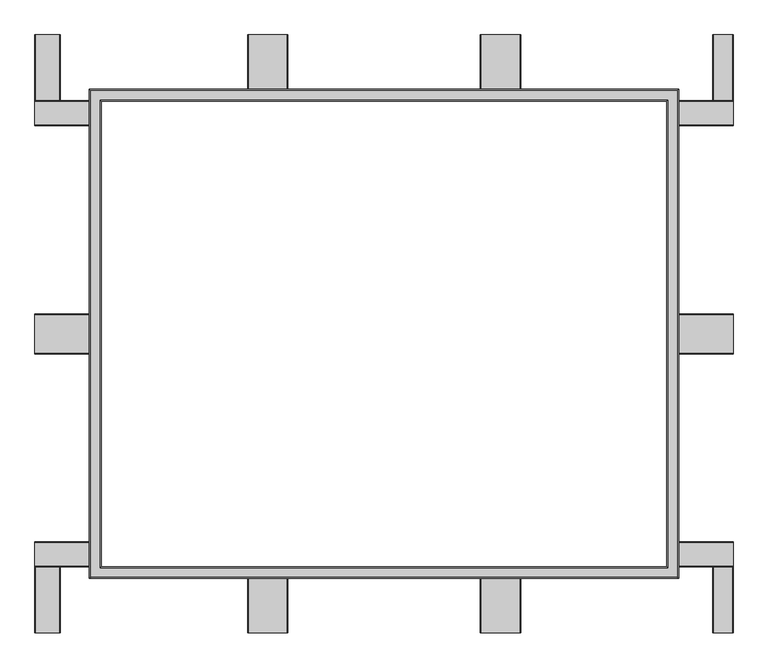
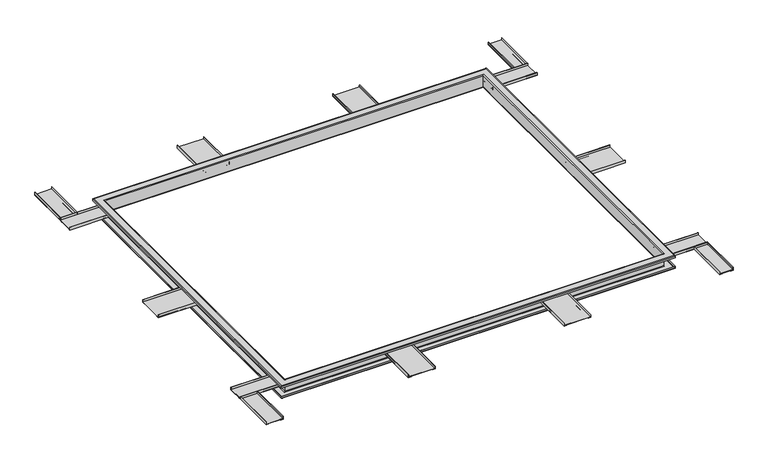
"""IFC4 building model written with IfcOpenShell, lengths in millimetres: furniture geometry, H07 Ducto laboratorios cuadrado : H07 Ducto laboratorios."""

from ifc_helpers import new_model, si_unit, frame, origin, place, context, project, spatial, polyline, ellipse_curve, outline, extrude, source, transform, mapped, element, save
from ifc_brep_helpers import plane_surface, cylinder_surface, revolved_surface, advanced_brep


def furniture_93ab70db(model_context):
    return source(origin(), model_context, "Body", "SolidModel", [
        extrude(outline(polyline([(-1920.5165908, 2167.0), (-1920.5165908, 2192.4), (-1917.5165908, 2192.4), (-1917.5165908, 2170.0), (-1895.1165908, 2170.0), (-1895.1165908, 2167.0), (-1920.5165908, 2167.0)])), frame((1746.7003264, 0.0, 0.0), z_axis=(1.0, 0.0, 0.0), x_axis=(0.0, 1.0, 0.0)), (0.0, 0.0, 1.0), 396.0),
        extrude(outline(polyline([(-1679.4917854, 2167.0), (-1704.8917854, 2167.0), (-1704.8917854, 2170.0), (-1682.4917854, 2170.0), (-1682.4917854, 2192.4), (-1679.4917854, 2192.4), (-1679.4917854, 2167.0)])), frame((1746.7003264, 0.0, 0.0), z_axis=(1.0, 0.0, 0.0), x_axis=(0.0, 1.0, 0.0)), (0.0, 0.0, 1.0), 396.0),
        extrude(outline(polyline([(2142.7003264, -1679.4917854), (2142.7003264, -1920.5165908), (1746.7003264, -1920.5165908), (1746.7003264, -1679.4917854), (2142.7003264, -1679.4917854)])), frame((0.0, 0.0, 2170.0), z_axis=(0.0, 0.0, 1.0), x_axis=(1.0, 0.0, 0.0)), (0.0, 0.0, 1.0), 3.0),
        extrude(outline(polyline([(2167.0, 2142.7003264), (2192.4, 2142.7003264), (2192.4, 2139.7003264), (2170.0, 2139.7003264), (2170.0, 2117.3003264), (2167.0, 2117.3003264), (2167.0, 2142.7003264)])), frame((0.0, -3598.0, 0.0), z_axis=(0.0, 1.0, 0.0), x_axis=(0.0, 0.0, 1.0)), (0.0, 0.0, 1.0), 396.0),
        extrude(outline(polyline([(2167.0, 2021.03388), (2167.0, 2046.43388), (2170.0, 2046.43388), (2170.0, 2024.03388), (2192.4, 2024.03388), (2192.4, 2021.03388), (2167.0, 2021.03388)])), frame((0.0, -3598.0, 0.0), z_axis=(0.0, 1.0, 0.0), x_axis=(0.0, 0.0, 1.0)), (0.0, 0.0, 1.0), 396.0),
        extrude(outline(polyline([(2021.03388, -3598.0), (2021.03388, -3202.0), (2142.7003264, -3202.0), (2142.7003264, -3598.0), (2021.03388, -3598.0)])), frame((0.0, 0.0, 2170.0), z_axis=(0.0, 0.0, 1.0), x_axis=(1.0, 0.0, 0.0)), (0.0, 0.0, 1.0), 3.0),
        extrude(outline(polyline([(2167.0, -2053.2996736), (2167.0, -2027.8996736), (2170.0, -2027.8996736), (2170.0, -2050.2996736), (2192.4, -2050.2996736), (2192.4, -2053.2996736), (2167.0, -2053.2996736)])), frame((0.0, -3598.0, 0.0), z_axis=(0.0, 1.0, 0.0), x_axis=(0.0, 0.0, 1.0)), (0.0, 0.0, 1.0), 396.0),
        extrude(outline(polyline([(2167.0, -1900.2996736), (2192.4, -1900.2996736), (2192.4, -1903.2996736), (2170.0, -1903.2996736), (2170.0, -1925.6996736), (2167.0, -1925.6996736), (2167.0, -1900.2996736)])), frame((0.0, -3598.0, 0.0), z_axis=(0.0, 1.0, 0.0), x_axis=(0.0, 0.0, 1.0)), (0.0, 0.0, 1.0), 396.0),
        extrude(outline(polyline([(-1900.2996736, -3598.0), (-2053.2996736, -3598.0), (-2053.2996736, -3202.0), (-1900.2996736, -3202.0), (-1900.2996736, -3598.0)])), frame((0.0, 0.0, 2170.0), z_axis=(0.0, 0.0, 1.0), x_axis=(1.0, 0.0, 0.0)), (0.0, 0.0, 1.0), 3.0),
        extrude(outline(polyline([(2167.0, 624.1837356), (2167.0, 649.5837356), (2170.0, 649.5837356), (2170.0, 627.1837356), (2192.4, 627.1837356), (2192.4, 624.1837356), (2167.0, 624.1837356)])), frame((0.0, -3598.0, 0.0), z_axis=(0.0, 1.0, 0.0), x_axis=(0.0, 0.0, 1.0)), (0.0, 0.0, 1.0), 396.0),
        extrude(outline(polyline([(2167.0, 865.208541), (2192.4, 865.208541), (2192.4, 862.208541), (2170.0, 862.208541), (2170.0, 839.808541), (2167.0, 839.808541), (2167.0, 865.208541)])), frame((0.0, -3598.0, 0.0), z_axis=(0.0, 1.0, 0.0), x_axis=(0.0, 0.0, 1.0)), (0.0, 0.0, 1.0), 396.0),
        extrude(outline(polyline([(865.208541, -3598.0), (624.1837356, -3598.0), (624.1837356, -3202.0), (865.208541, -3202.0), (865.208541, -3598.0)])), frame((0.0, 0.0, 2170.0), z_axis=(0.0, 0.0, 1.0), x_axis=(1.0, 0.0, 0.0)), (0.0, 0.0, 1.0), 3.0),
        extrude(outline(polyline([(2167.0, -774.8162644), (2167.0, -749.4162644), (2170.0, -749.4162644), (2170.0, -771.8162644), (2192.4, -771.8162644), (2192.4, -774.8162644), (2167.0, -774.8162644)])), frame((0.0, -3598.0, 0.0), z_axis=(0.0, 1.0, 0.0), x_axis=(0.0, 0.0, 1.0)), (0.0, 0.0, 1.0), 396.0),
        extrude(outline(polyline([(2167.0, -534.791459), (2192.4, -534.791459), (2192.4, -537.791459), (2170.0, -537.791459), (2170.0, -560.191459), (2167.0, -560.191459), (2167.0, -534.791459)])), frame((0.0, -3598.0, 0.0), z_axis=(0.0, 1.0, 0.0), x_axis=(0.0, 0.0, 1.0)), (0.0, 0.0, 1.0), 396.0),
        extrude(outline(polyline([(-534.791459, -3598.0), (-774.8162644, -3598.0), (-774.8162644, -3202.0), (-534.791459, -3202.0), (-534.791459, -3598.0)])), frame((0.0, 0.0, 2170.0), z_axis=(0.0, 0.0, 1.0), x_axis=(1.0, 0.0, 0.0)), (0.0, 0.0, 1.0), 3.0),
        extrude(outline(polyline([(2167.0, 2142.7003264), (2192.4, 2142.7003264), (2192.4, 2139.7003264), (2170.0, 2139.7003264), (2170.0, 2117.3003264), (2167.0, 2117.3003264), (2167.0, 2142.7003264)])), frame((0.0, -398.0, 0.0), z_axis=(0.0, 1.0, 0.0), x_axis=(0.0, 0.0, 1.0)), (0.0, 0.0, 1.0), 396.0),
        extrude(outline(polyline([(2167.0, 2021.03388), (2167.0, 2046.43388), (2170.0, 2046.43388), (2170.0, 2024.03388), (2192.4, 2024.03388), (2192.4, 2021.03388), (2167.0, 2021.03388)])), frame((0.0, -398.0, 0.0), z_axis=(0.0, 1.0, 0.0), x_axis=(0.0, 0.0, 1.0)), (0.0, 0.0, 1.0), 396.0),
        extrude(outline(polyline([(2021.03388, -2.0), (2142.7003264, -2.0), (2142.7003264, -398.0), (2021.03388, -398.0), (2021.03388, -2.0)])), frame((0.0, 0.0, 2170.0), z_axis=(0.0, 0.0, 1.0), x_axis=(1.0, 0.0, 0.0)), (0.0, 0.0, 1.0), 3.0),
        extrude(outline(polyline([(2167.0, -2053.2996736), (2167.0, -2027.8996736), (2170.0, -2027.8996736), (2170.0, -2050.2996736), (2192.4, -2050.2996736), (2192.4, -2053.2996736), (2167.0, -2053.2996736)])), frame((0.0, -398.0, 0.0), z_axis=(0.0, 1.0, 0.0), x_axis=(0.0, 0.0, 1.0)), (0.0, 0.0, 1.0), 396.0),
        extrude(outline(polyline([(2167.0, -1900.2996736), (2192.4, -1900.2996736), (2192.4, -1903.2996736), (2170.0, -1903.2996736), (2170.0, -1925.6996736), (2167.0, -1925.6996736), (2167.0, -1900.2996736)])), frame((0.0, -398.0, 0.0), z_axis=(0.0, 1.0, 0.0), x_axis=(0.0, 0.0, 1.0)), (0.0, 0.0, 1.0), 396.0),
        extrude(outline(polyline([(-1900.2996736, -2.0), (-1900.2996736, -398.0), (-2053.2996736, -398.0), (-2053.2996736, -2.0), (-1900.2996736, -2.0)])), frame((0.0, 0.0, 2170.0), z_axis=(0.0, 0.0, 1.0), x_axis=(1.0, 0.0, 0.0)), (0.0, 0.0, 1.0), 3.0),
        extrude(outline(polyline([(-3202.0, 2167.0), (-3202.0, 2192.4), (-3199.0, 2192.4), (-3199.0, 2170.0), (-3176.6, 2170.0), (-3176.6, 2167.0), (-3202.0, 2167.0)])), frame((1746.7003264, 0.0, 0.0), z_axis=(1.0, 0.0, 0.0), x_axis=(0.0, 1.0, 0.0)), (0.0, 0.0, 1.0), 396.0),
        extrude(outline(polyline([(-3052.0, 2167.0), (-3077.4, 2167.0), (-3077.4, 2170.0), (-3055.0, 2170.0), (-3055.0, 2192.4), (-3052.0, 2192.4), (-3052.0, 2167.0)])), frame((1746.7003264, 0.0, 0.0), z_axis=(1.0, 0.0, 0.0), x_axis=(0.0, 1.0, 0.0)), (0.0, 0.0, 1.0), 396.0),
        extrude(outline(polyline([(1746.7003264, -3052.0), (2142.7003264, -3052.0), (2142.7003264, -3202.0), (1746.7003264, -3202.0), (1746.7003264, -3052.0)])), frame((0.0, 0.0, 2170.0), z_axis=(0.0, 0.0, 1.0), x_axis=(1.0, 0.0, 0.0)), (0.0, 0.0, 1.0), 3.0),
        extrude(outline(polyline([(-3202.0, 2167.0), (-3202.0, 2192.4), (-3199.0, 2192.4), (-3199.0, 2170.0), (-3176.6, 2170.0), (-3176.6, 2167.0), (-3202.0, 2167.0)])), frame((-2053.2996736, 0.0, 0.0), z_axis=(1.0, 0.0, 0.0), x_axis=(0.0, 1.0, 0.0)), (0.0, 0.0, 1.0), 396.0),
        extrude(outline(polyline([(-3052.0, 2167.0), (-3077.4, 2167.0), (-3077.4, 2170.0), (-3055.0, 2170.0), (-3055.0, 2192.4), (-3052.0, 2192.4), (-3052.0, 2167.0)])), frame((-2053.2996736, 0.0, 0.0), z_axis=(1.0, 0.0, 0.0), x_axis=(0.0, 1.0, 0.0)), (0.0, 0.0, 1.0), 396.0),
        extrude(outline(polyline([(-2053.2996736, -3052.0), (-1657.2996736, -3052.0), (-1657.2996736, -3202.0), (-2053.2996736, -3202.0), (-2053.2996736, -3052.0)])), frame((0.0, 0.0, 2170.0), z_axis=(0.0, 0.0, 1.0), x_axis=(1.0, 0.0, 0.0)), (0.0, 0.0, 1.0), 3.0),
        extrude(outline(polyline([(-548.0, 2167.0), (-548.0, 2192.4), (-545.0, 2192.4), (-545.0, 2170.0), (-522.6, 2170.0), (-522.6, 2167.0), (-548.0, 2167.0)])), frame((1746.7003264, 0.0, 0.0), z_axis=(1.0, 0.0, 0.0), x_axis=(0.0, 1.0, 0.0)), (0.0, 0.0, 1.0), 396.0),
        extrude(outline(polyline([(-398.0, 2167.0), (-423.4, 2167.0), (-423.4, 2170.0), (-401.0, 2170.0), (-401.0, 2192.4), (-398.0, 2192.4), (-398.0, 2167.0)])), frame((1746.7003264, 0.0, 0.0), z_axis=(1.0, 0.0, 0.0), x_axis=(0.0, 1.0, 0.0)), (0.0, 0.0, 1.0), 396.0),
        extrude(outline(polyline([(1746.7003264, -398.0), (2142.7003264, -398.0), (2142.7003264, -548.0), (1746.7003264, -548.0), (1746.7003264, -398.0)])), frame((0.0, 0.0, 2170.0), z_axis=(0.0, 0.0, 1.0), x_axis=(1.0, 0.0, 0.0)), (0.0, 0.0, 1.0), 3.0),
        extrude(outline(polyline([(-548.0, 2167.0), (-548.0, 2192.4), (-545.0, 2192.4), (-545.0, 2170.0), (-522.6, 2170.0), (-522.6, 2167.0), (-548.0, 2167.0)])), frame((-2053.2996736, 0.0, 0.0), z_axis=(1.0, 0.0, 0.0), x_axis=(0.0, 1.0, 0.0)), (0.0, 0.0, 1.0), 396.0),
        extrude(outline(polyline([(-398.0, 2167.0), (-423.4, 2167.0), (-423.4, 2170.0), (-401.0, 2170.0), (-401.0, 2192.4), (-398.0, 2192.4), (-398.0, 2167.0)])), frame((-2053.2996736, 0.0, 0.0), z_axis=(1.0, 0.0, 0.0), x_axis=(0.0, 1.0, 0.0)), (0.0, 0.0, 1.0), 396.0),
        extrude(outline(polyline([(-2053.2996736, -398.0), (-1657.2996736, -398.0), (-1657.2996736, -548.0), (-2053.2996736, -548.0), (-2053.2996736, -398.0)])), frame((0.0, 0.0, 2170.0), z_axis=(0.0, 0.0, 1.0), x_axis=(1.0, 0.0, 0.0)), (0.0, 0.0, 1.0), 3.0),
        extrude(outline(polyline([(-1920.5165908, 2167.0), (-1920.5165908, 2192.4), (-1917.5165908, 2192.4), (-1917.5165908, 2170.0), (-1895.1165908, 2170.0), (-1895.1165908, 2167.0), (-1920.5165908, 2167.0)])), frame((-2053.2996736, 0.0, 0.0), z_axis=(1.0, 0.0, 0.0), x_axis=(0.0, 1.0, 0.0)), (0.0, 0.0, 1.0), 396.0),
        extrude(outline(polyline([(-1679.4917854, 2167.0), (-1704.8917854, 2167.0), (-1704.8917854, 2170.0), (-1682.4917854, 2170.0), (-1682.4917854, 2192.4), (-1679.4917854, 2192.4), (-1679.4917854, 2167.0)])), frame((-2053.2996736, 0.0, 0.0), z_axis=(1.0, 0.0, 0.0), x_axis=(0.0, 1.0, 0.0)), (0.0, 0.0, 1.0), 396.0),
        extrude(outline(polyline([(-2053.2996736, -1679.4917854), (-1657.2996736, -1679.4917854), (-1657.2996736, -1920.5165908), (-2053.2996736, -1920.5165908), (-2053.2996736, -1679.4917854)])), frame((0.0, 0.0, 2170.0), z_axis=(0.0, 0.0, 1.0), x_axis=(1.0, 0.0, 0.0)), (0.0, 0.0, 1.0), 3.0),
        extrude(outline(polyline([(2167.0, 624.1837356), (2167.0, 649.5837356), (2170.0, 649.5837356), (2170.0, 627.1837356), (2192.4, 627.1837356), (2192.4, 624.1837356), (2167.0, 624.1837356)])), frame((0.0, -398.0, 0.0), z_axis=(0.0, 1.0, 0.0), x_axis=(0.0, 0.0, 1.0)), (0.0, 0.0, 1.0), 396.0),
        extrude(outline(polyline([(2167.0, 865.208541), (2192.4, 865.208541), (2192.4, 862.208541), (2170.0, 862.208541), (2170.0, 839.808541), (2167.0, 839.808541), (2167.0, 865.208541)])), frame((0.0, -398.0, 0.0), z_axis=(0.0, 1.0, 0.0), x_axis=(0.0, 0.0, 1.0)), (0.0, 0.0, 1.0), 396.0),
        extrude(outline(polyline([(865.208541, -2.0), (865.208541, -398.0), (624.1837356, -398.0), (624.1837356, -2.0), (865.208541, -2.0)])), frame((0.0, 0.0, 2170.0), z_axis=(0.0, 0.0, 1.0), x_axis=(1.0, 0.0, 0.0)), (0.0, 0.0, 1.0), 3.0),
        extrude(outline(polyline([(2167.0, -774.8162644), (2167.0, -749.4162644), (2170.0, -749.4162644), (2170.0, -771.8162644), (2192.4, -771.8162644), (2192.4, -774.8162644), (2167.0, -774.8162644)])), frame((0.0, -398.0, 0.0), z_axis=(0.0, 1.0, 0.0), x_axis=(0.0, 0.0, 1.0)), (0.0, 0.0, 1.0), 396.0),
        extrude(outline(polyline([(2167.0, -534.791459), (2192.4, -534.791459), (2192.4, -537.791459), (2170.0, -537.791459), (2170.0, -560.191459), (2167.0, -560.191459), (2167.0, -534.791459)])), frame((0.0, -398.0, 0.0), z_axis=(0.0, 1.0, 0.0), x_axis=(0.0, 0.0, 1.0)), (0.0, 0.0, 1.0), 396.0),
        extrude(outline(polyline([(-534.791459, -2.0), (-534.791459, -398.0), (-774.8162644, -398.0), (-774.8162644, -2.0), (-534.791459, -2.0)])), frame((0.0, 0.0, 2170.0), z_axis=(0.0, 0.0, 1.0), x_axis=(1.0, 0.0, 0.0)), (0.0, 0.0, 1.0), 3.0),
        advanced_brep(
        [(-1725.2996736, -3270.0, 2120.0), (-1725.2996736, -3270.0, 2106.0), (1814.7003264, -3270.0, 2106.0), (1814.7003264, -3270.0, 2120.0), (-1723.2996736, -3268.0, 2106.0), (-1723.2996736, -3268.0, 2120.0), (1812.7003264, -3268.0, 2120.0), (1812.7003264, -3268.0, 2106.0), (-1719.2996736, -3264.0, 2102.0), (1808.7003264, -3264.0, 2102.0), (-1657.2996736, -3202.0, 2106.0), (-1661.2996736, -3206.0, 2102.0), (1750.7003264, -3206.0, 2102.0), (1746.7003264, -3202.0, 2106.0), (-1657.2996736, -3202.0, 2214.0), (1746.7003264, -3202.0, 2214.0), (-1661.2996736, -3206.0, 2218.0), (1750.7003264, -3206.0, 2218.0), (-1723.2996736, -3268.0, 2214.0), (-1719.2996736, -3264.0, 2218.0), (1808.7003264, -3264.0, 2218.0), (1812.7003264, -3268.0, 2214.0), (-1723.2996736, -3268.0, 2200.0), (1812.7003264, -3268.0, 2200.0), (-1725.2996736, -3270.0, 2214.0), (-1725.2996736, -3270.0, 2200.0), (1814.7003264, -3270.0, 2200.0), (1814.7003264, -3270.0, 2214.0), (-1719.2996736, -3264.0, 2220.0), (1808.7003264, -3264.0, 2220.0), (-1655.2996736, -3200.0, 2214.0), (-1661.2996736, -3206.0, 2220.0), (1750.7003264, -3206.0, 2220.0), (1744.7003264, -3200.0, 2214.0), (-1655.2996736, -3200.0, 2106.0), (1744.7003264, -3200.0, 2106.0), (-1661.2996736, -3206.0, 2100.0), (1750.7003264, -3206.0, 2100.0), (-1719.2996736, -3264.0, 2100.0), (1808.7003264, -3264.0, 2100.0), (1814.7003264, -330.0, 2106.0), (1814.7003264, -330.0, 2120.0), (1812.7003264, -332.0, 2120.0), (1812.7003264, -332.0, 2106.0), (1808.7003264, -336.0, 2102.0), (1750.7003264, -394.0, 2102.0), (1746.7003264, -398.0, 2106.0), (1746.7003264, -398.0, 2214.0), (1750.7003264, -394.0, 2218.0), (1808.7003264, -336.0, 2218.0), (1812.7003264, -332.0, 2214.0), (1812.7003264, -332.0, 2200.0), (1814.7003264, -330.0, 2200.0), (1814.7003264, -330.0, 2214.0), (1808.7003264, -336.0, 2220.0), (1750.7003264, -394.0, 2220.0), (1744.7003264, -400.0, 2214.0), (1744.7003264, -400.0, 2106.0), (1750.7003264, -394.0, 2100.0), (1808.7003264, -336.0, 2100.0), (-1725.2996736, -330.0, 2106.0), (-1725.2996736, -330.0, 2120.0), (-1723.2996736, -332.0, 2120.0), (-1723.2996736, -332.0, 2106.0), (-1719.2996736, -336.0, 2102.0), (-1661.2996736, -394.0, 2102.0), (-1657.2996736, -398.0, 2106.0), (-1657.2996736, -398.0, 2214.0), (-1661.2996736, -394.0, 2218.0), (-1719.2996736, -336.0, 2218.0), (-1723.2996736, -332.0, 2214.0), (-1723.2996736, -332.0, 2200.0), (-1725.2996736, -330.0, 2200.0), (-1725.2996736, -330.0, 2214.0), (-1719.2996736, -336.0, 2220.0), (-1661.2996736, -394.0, 2220.0), (-1655.2996736, -400.0, 2214.0), (-1655.2996736, -400.0, 2106.0), (-1661.2996736, -394.0, 2100.0), (-1719.2996736, -336.0, 2100.0)],
        [
            (0, 1),
            (1, 2),
            (2, 3),
            (3, 0),
            (4, 5),
            (5, 6),
            (6, 7),
            (7, 4),
            (8, 4, ellipse_curve(frame((-1719.2996736, -3264.0, 2106.0), z_axis=(-0.7071067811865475, 0.7071067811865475, 0.0), x_axis=(0.7071067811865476, 0.7071067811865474, 0.0)), 5.6568542, 4.0)),
            (7, 9, ellipse_curve(frame((1808.7003264, -3264.0, 2106.0), z_axis=(0.7071067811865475, 0.7071067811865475, 0.0), x_axis=(0.7071067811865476, -0.7071067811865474, 0.0)), 5.6568542, 4.0)),
            (9, 8),
            (10, 11, ellipse_curve(frame((-1661.2996736, -3206.0, 2106.0), z_axis=(-0.7071067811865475, 0.7071067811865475, 0.0), x_axis=(0.7071067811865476, 0.7071067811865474, 0.0)), 5.6568542, 4.0)),
            (11, 12),
            (12, 13, ellipse_curve(frame((1750.7003264, -3206.0, 2106.0), z_axis=(0.7071067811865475, 0.7071067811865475, 0.0), x_axis=(0.7071067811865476, -0.7071067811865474, 0.0)), 5.6568542, 4.0)),
            (13, 10),
            (14, 10),
            (13, 15),
            (15, 14),
            (16, 14, ellipse_curve(frame((-1661.2996736, -3206.0, 2214.0), z_axis=(-0.7071067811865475, 0.7071067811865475, 0.0), x_axis=(0.7071067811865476, 0.7071067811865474, 0.0)), 5.6568542, 4.0)),
            (15, 17, ellipse_curve(frame((1750.7003264, -3206.0, 2214.0), z_axis=(0.7071067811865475, 0.7071067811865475, 0.0), x_axis=(0.7071067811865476, -0.7071067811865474, 0.0)), 5.6568542, 4.0)),
            (17, 16),
            (18, 19, ellipse_curve(frame((-1719.2996736, -3264.0, 2214.0), z_axis=(-0.7071067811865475, 0.7071067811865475, 0.0), x_axis=(0.7071067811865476, 0.7071067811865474, 0.0)), 5.6568542, 4.0)),
            (19, 20),
            (20, 21, ellipse_curve(frame((1808.7003264, -3264.0, 2214.0), z_axis=(0.7071067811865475, 0.7071067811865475, 0.0), x_axis=(0.7071067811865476, -0.7071067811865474, 0.0)), 5.6568542, 4.0)),
            (21, 18),
            (22, 18),
            (21, 23),
            (23, 22),
            (24, 25),
            (25, 26),
            (26, 27),
            (27, 24),
            (28, 24, ellipse_curve(frame((-1719.2996736, -3264.0, 2214.0), z_axis=(0.7071067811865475, -0.7071067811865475, 0.0), x_axis=(-0.7071067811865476, -0.7071067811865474, 0.0)), 8.4852814, 6.0)),
            (27, 29, ellipse_curve(frame((1808.7003264, -3264.0, 2214.0), z_axis=(-0.7071067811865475, -0.7071067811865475, 0.0), x_axis=(-0.7071067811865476, 0.7071067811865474, 0.0)), 8.4852814, 6.0)),
            (29, 28),
            (30, 31, ellipse_curve(frame((-1661.2996736, -3206.0, 2214.0), z_axis=(0.7071067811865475, -0.7071067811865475, 0.0), x_axis=(-0.7071067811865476, -0.7071067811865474, 0.0)), 8.4852814, 6.0)),
            (31, 32),
            (32, 33, ellipse_curve(frame((1750.7003264, -3206.0, 2214.0), z_axis=(-0.7071067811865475, -0.7071067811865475, 0.0), x_axis=(-0.7071067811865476, 0.7071067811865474, 0.0)), 8.4852814, 6.0)),
            (33, 30),
            (34, 30),
            (33, 35),
            (35, 34),
            (36, 34, ellipse_curve(frame((-1661.2996736, -3206.0, 2106.0), z_axis=(0.7071067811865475, -0.7071067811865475, 0.0), x_axis=(-0.7071067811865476, -0.7071067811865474, 0.0)), 8.4852814, 6.0)),
            (35, 37, ellipse_curve(frame((1750.7003264, -3206.0, 2106.0), z_axis=(-0.7071067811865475, -0.7071067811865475, 0.0), x_axis=(-0.7071067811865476, 0.7071067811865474, 0.0)), 8.4852814, 6.0)),
            (37, 36),
            (1, 38, ellipse_curve(frame((-1719.2996736, -3264.0, 2106.0), z_axis=(0.7071067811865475, -0.7071067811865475, 0.0), x_axis=(-0.7071067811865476, -0.7071067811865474, 0.0)), 8.4852814, 6.0)),
            (38, 39),
            (39, 2, ellipse_curve(frame((1808.7003264, -3264.0, 2106.0), z_axis=(-0.7071067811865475, -0.7071067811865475, 0.0), x_axis=(-0.7071067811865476, 0.7071067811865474, 0.0)), 8.4852814, 6.0)),
            (2, 40),
            (40, 41),
            (41, 3),
            (6, 42),
            (42, 43),
            (43, 7),
            (43, 44, ellipse_curve(frame((1808.7003264, -336.0, 2106.0), z_axis=(-0.7071067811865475, 0.7071067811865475, 0.0), x_axis=(0.7071067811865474, 0.7071067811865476, 0.0)), 5.6568542, 4.0)),
            (44, 9),
            (12, 45),
            (45, 46, ellipse_curve(frame((1750.7003264, -394.0, 2106.0), z_axis=(-0.7071067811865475, 0.7071067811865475, 0.0), x_axis=(0.7071067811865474, 0.7071067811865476, 0.0)), 5.6568542, 4.0)),
            (46, 13),
            (46, 47),
            (47, 15),
            (47, 48, ellipse_curve(frame((1750.7003264, -394.0, 2214.0), z_axis=(-0.7071067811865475, 0.7071067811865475, 0.0), x_axis=(0.7071067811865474, 0.7071067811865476, 0.0)), 5.6568542, 4.0)),
            (48, 17),
            (20, 49),
            (49, 50, ellipse_curve(frame((1808.7003264, -336.0, 2214.0), z_axis=(-0.7071067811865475, 0.7071067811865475, 0.0), x_axis=(0.7071067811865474, 0.7071067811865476, 0.0)), 5.6568542, 4.0)),
            (50, 21),
            (50, 51),
            (51, 23),
            (26, 52),
            (52, 53),
            (53, 27),
            (53, 54, ellipse_curve(frame((1808.7003264, -336.0, 2214.0), z_axis=(0.7071067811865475, -0.7071067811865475, 0.0), x_axis=(-0.7071067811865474, -0.7071067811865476, 0.0)), 8.4852814, 6.0)),
            (54, 29),
            (32, 55),
            (55, 56, ellipse_curve(frame((1750.7003264, -394.0, 2214.0), z_axis=(0.7071067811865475, -0.7071067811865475, 0.0), x_axis=(-0.7071067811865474, -0.7071067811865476, 0.0)), 8.4852814, 6.0)),
            (56, 33),
            (56, 57),
            (57, 35),
            (57, 58, ellipse_curve(frame((1750.7003264, -394.0, 2106.0), z_axis=(0.7071067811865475, -0.7071067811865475, 0.0), x_axis=(-0.7071067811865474, -0.7071067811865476, 0.0)), 8.4852814, 6.0)),
            (58, 37),
            (39, 59),
            (59, 40, ellipse_curve(frame((1808.7003264, -336.0, 2106.0), z_axis=(0.7071067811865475, -0.7071067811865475, 0.0), x_axis=(-0.7071067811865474, -0.7071067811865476, 0.0)), 8.4852814, 6.0)),
            (40, 60),
            (60, 61),
            (61, 41),
            (42, 62),
            (62, 63),
            (63, 43),
            (63, 64, ellipse_curve(frame((-1719.2996736, -336.0, 2106.0), z_axis=(-0.7071067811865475, -0.7071067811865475, 0.0), x_axis=(-0.7071067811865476, 0.7071067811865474, 0.0)), 5.6568542, 4.0)),
            (64, 44),
            (45, 65),
            (65, 66, ellipse_curve(frame((-1661.2996736, -394.0, 2106.0), z_axis=(-0.7071067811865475, -0.7071067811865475, 0.0), x_axis=(-0.7071067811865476, 0.7071067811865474, 0.0)), 5.6568542, 4.0)),
            (66, 46),
            (66, 67),
            (67, 47),
            (67, 68, ellipse_curve(frame((-1661.2996736, -394.0, 2214.0), z_axis=(-0.7071067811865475, -0.7071067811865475, 0.0), x_axis=(-0.7071067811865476, 0.7071067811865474, 0.0)), 5.6568542, 4.0)),
            (68, 48),
            (49, 69),
            (69, 70, ellipse_curve(frame((-1719.2996736, -336.0, 2214.0), z_axis=(-0.7071067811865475, -0.7071067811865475, 0.0), x_axis=(-0.7071067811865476, 0.7071067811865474, 0.0)), 5.6568542, 4.0)),
            (70, 50),
            (70, 71),
            (71, 51),
            (52, 72),
            (72, 73),
            (73, 53),
            (73, 74, ellipse_curve(frame((-1719.2996736, -336.0, 2214.0), z_axis=(0.7071067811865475, 0.7071067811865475, 0.0), x_axis=(0.7071067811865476, -0.7071067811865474, 0.0)), 8.4852814, 6.0)),
            (74, 54),
            (55, 75),
            (75, 76, ellipse_curve(frame((-1661.2996736, -394.0, 2214.0), z_axis=(0.7071067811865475, 0.7071067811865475, 0.0), x_axis=(0.7071067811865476, -0.7071067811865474, 0.0)), 8.4852814, 6.0)),
            (76, 56),
            (76, 77),
            (77, 57),
            (77, 78, ellipse_curve(frame((-1661.2996736, -394.0, 2106.0), z_axis=(0.7071067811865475, 0.7071067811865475, 0.0), x_axis=(0.7071067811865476, -0.7071067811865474, 0.0)), 8.4852814, 6.0)),
            (78, 58),
            (59, 79),
            (79, 60, ellipse_curve(frame((-1719.2996736, -336.0, 2106.0), z_axis=(0.7071067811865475, 0.7071067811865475, 0.0), x_axis=(0.7071067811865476, -0.7071067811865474, 0.0)), 8.4852814, 6.0)),
            (60, 1),
            (0, 61),
            (5, 62),
            (4, 63),
            (8, 64),
            (11, 65),
            (10, 66),
            (14, 67),
            (16, 68),
            (19, 69),
            (18, 70),
            (22, 71),
            (25, 72),
            (24, 73),
            (28, 74),
            (31, 75),
            (30, 76),
            (34, 77),
            (36, 78),
            (38, 79),
        ],
        [
            plane_surface(frame((-1725.2996736, -3270.0, 2106.0), z_axis=(0.0, -1.0, 0.0), x_axis=(1.0, 0.0, 0.0))),
            plane_surface(frame((-1723.2996736, -3268.0, 2120.0), z_axis=(0.0, 1.0, 0.0), x_axis=(1.0, 0.0, 0.0))),
            revolved_surface(polyline([(1812.7003264, -3268.0, 2106.0), (-1723.2996736, -3268.0, 2106.0)]), (-1655.2996736, -3264.0, 2106.0), (1.0, 0.0, 0.0)),
            revolved_surface(polyline([(1754.7003263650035, -3210.0, 2106.0), (-1665.2996735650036, -3210.0, 2106.0)]), (-1655.2996736, -3206.0, 2106.0), (1.0, 0.0, 0.0)),
            plane_surface(frame((-1657.2996736, -3202.0, 2106.0), z_axis=(0.0, -1.0, 0.0), x_axis=(1.0, 0.0, 0.0))),
            revolved_surface(polyline([(1754.7003263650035, -3210.0, 2214.0), (-1665.2996735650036, -3210.0, 2214.0)]), (-1655.2996736, -3206.0, 2214.0), (1.0, 0.0, 0.0)),
            revolved_surface(polyline([(1812.7003264, -3268.0, 2214.0), (-1723.2996736, -3268.0, 2214.0)]), (-1655.2996736, -3264.0, 2214.0), (1.0, 0.0, 0.0)),
            plane_surface(frame((-1723.2996736, -3268.0, 2214.0), z_axis=(0.0, 1.0, 0.0), x_axis=(1.0, 0.0, 0.0))),
            plane_surface(frame((-1725.2996736, -3270.0, 2200.0), z_axis=(0.0, -1.0, 0.0), x_axis=(1.0, 0.0, 0.0))),
            cylinder_surface(frame((-1655.2996736, -3264.0, 2214.0), z_axis=(-1.0, 0.0, 0.0), x_axis=(0.0, -1.0, 0.0)), 6.0),
            cylinder_surface(frame((-1655.2996736, -3206.0, 2214.0), z_axis=(-1.0, 0.0, 0.0), x_axis=(0.0, -1.0, 0.0)), 6.0),
            plane_surface(frame((-1655.2996736, -3200.0, 2214.0), z_axis=(0.0, 1.0, 0.0), x_axis=(1.0, 0.0, 0.0))),
            cylinder_surface(frame((-1655.2996736, -3206.0, 2106.0), z_axis=(-1.0, 0.0, 0.0), x_axis=(0.0, -1.0, 0.0)), 6.0),
            cylinder_surface(frame((-1655.2996736, -3264.0, 2106.0), z_axis=(-1.0, 0.0, 0.0), x_axis=(0.0, -1.0, 0.0)), 6.0),
            plane_surface(frame((1814.7003264, -3270.0, 2106.0), z_axis=(1.0, 0.0, 0.0), x_axis=(0.0, 1.0, 0.0))),
            plane_surface(frame((1812.7003264, -3268.0, 2120.0), z_axis=(-1.0, 0.0, 0.0), x_axis=(0.0, 1.0, 0.0))),
            revolved_surface(polyline([(1812.7003264, -332.0, 2106.0), (1812.7003264, -3268.0, 2106.0)]), (1808.7003264, -3200.0, 2106.0), (0.0, 1.0, 0.0)),
            revolved_surface(polyline([(1754.7003264, -390.00000003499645, 2106.0), (1754.7003264, -3209.9999999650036, 2106.0)]), (1750.7003264, -3200.0, 2106.0), (0.0, 1.0, 0.0)),
            plane_surface(frame((1746.7003264, -3202.0, 2106.0), z_axis=(1.0, 0.0, 0.0), x_axis=(0.0, 1.0, 0.0))),
            revolved_surface(polyline([(1754.7003264, -390.00000003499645, 2214.0), (1754.7003264, -3209.9999999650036, 2214.0)]), (1750.7003264, -3200.0, 2214.0), (0.0, 1.0, 0.0)),
            revolved_surface(polyline([(1812.7003264, -332.0, 2214.0), (1812.7003264, -3268.0, 2214.0)]), (1808.7003264, -3200.0, 2214.0), (0.0, 1.0, 0.0)),
            plane_surface(frame((1812.7003264, -3268.0, 2214.0), z_axis=(-1.0, 0.0, 0.0), x_axis=(0.0, 1.0, 0.0))),
            plane_surface(frame((1814.7003264, -3270.0, 2200.0), z_axis=(1.0, 0.0, 0.0), x_axis=(0.0, 1.0, 0.0))),
            cylinder_surface(frame((1808.7003264, -3200.0, 2214.0), z_axis=(0.0, -1.0, 0.0), x_axis=(1.0, 0.0, 0.0)), 6.0),
            cylinder_surface(frame((1750.7003264, -3200.0, 2214.0), z_axis=(0.0, -1.0, 0.0), x_axis=(1.0, 0.0, 0.0)), 6.0),
            plane_surface(frame((1744.7003264, -3200.0, 2214.0), z_axis=(-1.0, 0.0, 0.0), x_axis=(0.0, 1.0, 0.0))),
            cylinder_surface(frame((1750.7003264, -3200.0, 2106.0), z_axis=(0.0, -1.0, 0.0), x_axis=(1.0, 0.0, 0.0)), 6.0),
            cylinder_surface(frame((1808.7003264, -3200.0, 2106.0), z_axis=(0.0, -1.0, 0.0), x_axis=(1.0, 0.0, 0.0)), 6.0),
            plane_surface(frame((1814.7003264, -330.0, 2106.0), z_axis=(0.0, 1.0, 0.0), x_axis=(-1.0, 0.0, 0.0))),
            plane_surface(frame((1812.7003264, -332.0, 2120.0), z_axis=(0.0, -1.0, 0.0), x_axis=(-1.0, 0.0, 0.0))),
            revolved_surface(polyline([(-1723.2996736, -332.0, 2106.0), (1812.7003264, -332.0, 2106.0)]), (1744.7003264, -336.0, 2106.0), (-1.0, 0.0, 0.0)),
            revolved_surface(polyline([(-1665.2996735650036, -390.0, 2106.0), (1754.7003263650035, -390.0, 2106.0)]), (1744.7003264, -394.0, 2106.0), (-1.0, 0.0, 0.0)),
            plane_surface(frame((1746.7003264, -398.0, 2106.0), z_axis=(0.0, 1.0, 0.0), x_axis=(-1.0, 0.0, 0.0))),
            revolved_surface(polyline([(-1665.2996735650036, -390.0, 2214.0), (1754.7003263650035, -390.0, 2214.0)]), (1744.7003264, -394.0, 2214.0), (-1.0, 0.0, 0.0)),
            revolved_surface(polyline([(-1723.2996736, -332.0, 2214.0), (1812.7003264, -332.0, 2214.0)]), (1744.7003264, -336.0, 2214.0), (-1.0, 0.0, 0.0)),
            plane_surface(frame((1812.7003264, -332.0, 2214.0), z_axis=(0.0, -1.0, 0.0), x_axis=(-1.0, 0.0, 0.0))),
            plane_surface(frame((1814.7003264, -330.0, 2200.0), z_axis=(0.0, 1.0, 0.0), x_axis=(-1.0, 0.0, 0.0))),
            cylinder_surface(frame((1744.7003264, -336.0, 2214.0), z_axis=(1.0, 0.0, 0.0), x_axis=(0.0, 1.0, 0.0)), 6.0),
            cylinder_surface(frame((1744.7003264, -394.0, 2214.0), z_axis=(1.0, 0.0, 0.0), x_axis=(0.0, 1.0, 0.0)), 6.0),
            plane_surface(frame((1744.7003264, -400.0, 2214.0), z_axis=(0.0, -1.0, 0.0), x_axis=(-1.0, 0.0, 0.0))),
            cylinder_surface(frame((1744.7003264, -394.0, 2106.0), z_axis=(1.0, 0.0, 0.0), x_axis=(0.0, 1.0, 0.0)), 6.0),
            cylinder_surface(frame((1744.7003264, -336.0, 2106.0), z_axis=(1.0, 0.0, 0.0), x_axis=(0.0, 1.0, 0.0)), 6.0),
            plane_surface(frame((-1725.2996736, -330.0, 2106.0), z_axis=(-1.0, 0.0, 0.0), x_axis=(0.0, -1.0, 0.0))),
            plane_surface(frame((-1725.2996736, -330.0, 2120.0), z_axis=(0.0, 0.0, 1.0), x_axis=(0.0, -1.0, 0.0))),
            plane_surface(frame((-1723.2996736, -332.0, 2120.0), z_axis=(1.0, 0.0, 0.0), x_axis=(0.0, -1.0, 0.0))),
            revolved_surface(polyline([(-1723.2996736, -3268.0, 2106.0), (-1723.2996736, -332.0, 2106.0)]), (-1719.2996736, -400.0, 2106.0), (0.0, -1.0, 0.0)),
            plane_surface(frame((-1719.2996736, -336.0, 2102.0), z_axis=(0.0, 0.0, 1.0), x_axis=(0.0, -1.0, 0.0))),
            revolved_surface(polyline([(-1665.2996736, -3209.9999999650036, 2106.0), (-1665.2996736, -390.0000000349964, 2106.0)]), (-1661.2996736, -400.0, 2106.0), (0.0, -1.0, 0.0)),
            plane_surface(frame((-1657.2996736, -398.0, 2106.0), z_axis=(-1.0, 0.0, 0.0), x_axis=(0.0, -1.0, 0.0))),
            revolved_surface(polyline([(-1665.2996736, -3209.9999999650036, 2214.0), (-1665.2996736, -390.0000000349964, 2214.0)]), (-1661.2996736, -400.0, 2214.0), (0.0, -1.0, 0.0)),
            plane_surface(frame((-1661.2996736, -394.0, 2218.0), z_axis=(0.0, 0.0, -1.0), x_axis=(0.0, -1.0, 0.0))),
            revolved_surface(polyline([(-1723.2996736, -3268.0, 2214.0), (-1723.2996736, -332.0, 2214.0)]), (-1719.2996736, -400.0, 2214.0), (0.0, -1.0, 0.0)),
            plane_surface(frame((-1723.2996736, -332.0, 2214.0), z_axis=(1.0, 0.0, 0.0), x_axis=(0.0, -1.0, 0.0))),
            plane_surface(frame((-1723.2996736, -332.0, 2200.0), z_axis=(0.0, 0.0, -1.0), x_axis=(0.0, -1.0, 0.0))),
            plane_surface(frame((-1725.2996736, -330.0, 2200.0), z_axis=(-1.0, 0.0, 0.0), x_axis=(0.0, -1.0, 0.0))),
            cylinder_surface(frame((-1719.2996736, -400.0, 2214.0), z_axis=(0.0, 1.0, 0.0), x_axis=(-1.0, 0.0, 0.0)), 6.0),
            plane_surface(frame((-1719.2996736, -336.0, 2220.0), z_axis=(0.0, 0.0, 1.0), x_axis=(0.0, -1.0, 0.0))),
            cylinder_surface(frame((-1661.2996736, -400.0, 2214.0), z_axis=(0.0, 1.0, 0.0), x_axis=(-1.0, 0.0, 0.0)), 6.0),
            plane_surface(frame((-1655.2996736, -400.0, 2214.0), z_axis=(1.0, 0.0, 0.0), x_axis=(0.0, -1.0, 0.0))),
            cylinder_surface(frame((-1661.2996736, -400.0, 2106.0), z_axis=(0.0, 1.0, 0.0), x_axis=(-1.0, 0.0, 0.0)), 6.0),
            plane_surface(frame((-1661.2996736, -394.0, 2100.0), z_axis=(0.0, 0.0, -1.0), x_axis=(0.0, -1.0, 0.0))),
            cylinder_surface(frame((-1719.2996736, -400.0, 2106.0), z_axis=(0.0, 1.0, 0.0), x_axis=(-1.0, 0.0, 0.0)), 6.0),
        ],
        [
            (0, [[1, 2, 3, 4]]),
            (1, [[5, 6, 7, 8]]),
            (2, [[9, -8, 10, 11]]),
            (3, [[12, 13, 14, 15]]),
            (4, [[16, -15, 17, 18]]),
            (5, [[19, -18, 20, 21]]),
            (6, [[22, 23, 24, 25]]),
            (7, [[26, -25, 27, 28]]),
            (8, [[29, 30, 31, 32]]),
            (9, [[33, -32, 34, 35]]),
            (10, [[36, 37, 38, 39]]),
            (11, [[40, -39, 41, 42]]),
            (12, [[43, -42, 44, 45]]),
            (13, [[46, 47, 48, -2]]),
            (14, [[-3, 49, 50, 51]]),
            (15, [[-7, 52, 53, 54]]),
            (16, [[-10, -54, 55, 56]]),
            (17, [[-14, 57, 58, 59]]),
            (18, [[-17, -59, 60, 61]]),
            (19, [[-20, -61, 62, 63]]),
            (20, [[-24, 64, 65, 66]]),
            (21, [[-27, -66, 67, 68]]),
            (22, [[-31, 69, 70, 71]]),
            (23, [[-34, -71, 72, 73]]),
            (24, [[-38, 74, 75, 76]]),
            (25, [[-41, -76, 77, 78]]),
            (26, [[-44, -78, 79, 80]]),
            (27, [[-48, 81, 82, -49]]),
            (28, [[-50, 83, 84, 85]]),
            (29, [[-53, 86, 87, 88]]),
            (30, [[-55, -88, 89, 90]]),
            (31, [[-58, 91, 92, 93]]),
            (32, [[-60, -93, 94, 95]]),
            (33, [[-62, -95, 96, 97]]),
            (34, [[-65, 98, 99, 100]]),
            (35, [[-67, -100, 101, 102]]),
            (36, [[-70, 103, 104, 105]]),
            (37, [[-72, -105, 106, 107]]),
            (38, [[-75, 108, 109, 110]]),
            (39, [[-77, -110, 111, 112]]),
            (40, [[-79, -112, 113, 114]]),
            (41, [[-82, 115, 116, -83]]),
            (42, [[-84, 117, -1, 118]]),
            (43, [[-51, -85, -118, -4], [119, -86, -52, -6]]),
            (44, [[-87, -119, -5, 120]]),
            (45, [[-89, -120, -9, 121]]),
            (46, [[-56, -90, -121, -11], [122, -91, -57, -13]]),
            (47, [[-92, -122, -12, 123]]),
            (48, [[-94, -123, -16, 124]]),
            (49, [[-96, -124, -19, 125]]),
            (50, [[126, -98, -64, -23], [-63, -97, -125, -21]]),
            (51, [[-99, -126, -22, 127]]),
            (52, [[-101, -127, -26, 128]]),
            (53, [[129, -103, -69, -30], [-68, -102, -128, -28]]),
            (54, [[-104, -129, -29, 130]]),
            (55, [[-106, -130, -33, 131]]),
            (56, [[-73, -107, -131, -35], [132, -108, -74, -37]]),
            (57, [[-109, -132, -36, 133]]),
            (58, [[-111, -133, -40, 134]]),
            (59, [[-113, -134, -43, 135]]),
            (60, [[136, -115, -81, -47], [-80, -114, -135, -45]]),
            (61, [[-116, -136, -46, -117]]),
        ],
    ),
    ])


if __name__ == "__main__":
    model = new_model("IFC4")
    model_context = context("Model", 3, world=origin())
    ifc_project = project(units=[si_unit("LENGTHUNIT", "METRE", prefix="MILLI")], contexts=[model_context])
    site = spatial("IfcSite", under=ifc_project)
    building = spatial("IfcBuilding", under=site)
    placement = place(None, origin())
    furniture_shape = furniture_93ab70db(model_context)
    element("IfcFurniture", 1, ObjectType="H07 Ducto laboratorios cuadrado : H07 Ducto laboratorios", at=placement, inside=building, context=model_context, shape_type="MappedRepresentation", body=[
        mapped(furniture_shape, transform((0.0, 0.0, 0.0), x_axis=(1.0, 0.0, 0.0), y_axis=(0.0, 1.0, 0.0), z_axis=(0.0, 0.0, 1.0))),
    ])
    save(model, "model.ifc")
